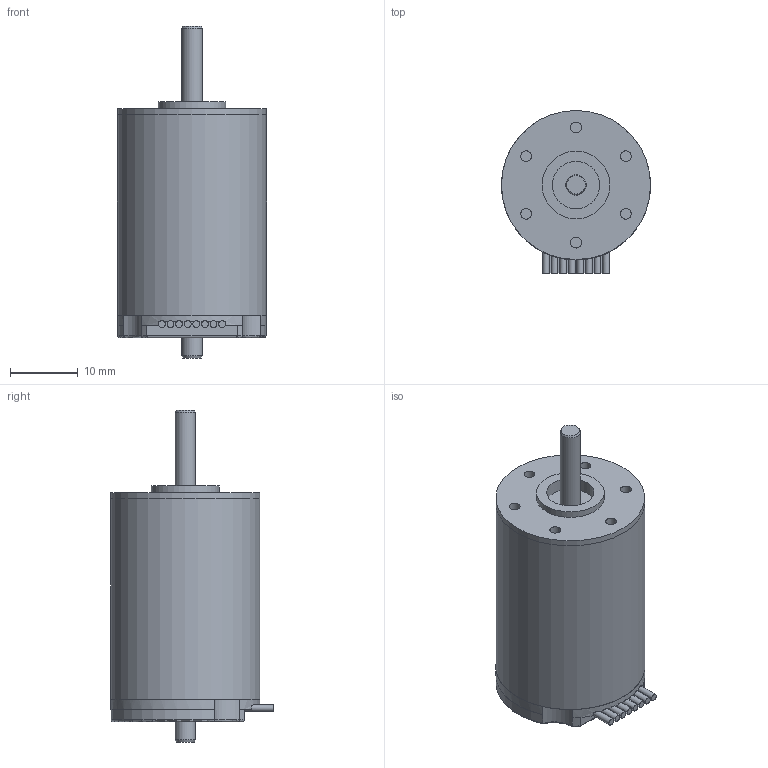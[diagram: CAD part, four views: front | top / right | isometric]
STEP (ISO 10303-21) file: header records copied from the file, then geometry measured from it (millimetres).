
FILE_DESCRIPTION(/* description */ (''),/* implementation_level */ '2;1');
FILE_NAME(/* name */ '2232.BX4.stp',/* time_stamp */ '2012-10-31T09:29:14+01:00',/* author */ ('DR. FRITZ FAULHABER GmbH & Co. KG'),/* organization */ ('DR. FRITZ FAULHABER GmbH & Co. KG'),/* preprocessor_version */ 'ST-DEVELOPER v11',/* originating_system */ 'SIEMENS PLM Software NX 7.5',/* authorisation */ '');
FILE_SCHEMA (('AUTOMOTIVE_DESIGN { 1 0 10303 214 1 1 1 1 }'));
Length unit declared in the file: millimetre
Products named in the file (1): 2232.BX4
Bounding box: 22 x 24 x 49 mm (x, y, z)
Volume: 12851.1 mm3; surface area: 3513.6 mm2
Topology: 1 solids, 1 shells, 102 faces, 248 edges, 162 vertices
Faces by surface type: plane 57, cylinder 37, torus 6, cone 2
Full cylindrical faces by diameter (mm): 1.6 x6, 3 x2, 7 x1, 9.1 x1, 10 x1, 21.99 x2, 22 x2
Entity records: 3151 total; most frequent: CARTESIAN_POINT 739, DIRECTION 527, ORIENTED_EDGE 452, EDGE_CURVE 226, AXIS2_PLACEMENT_3D 212, VERTEX_POINT 158, EDGE_LOOP 134, CIRCLE 109
